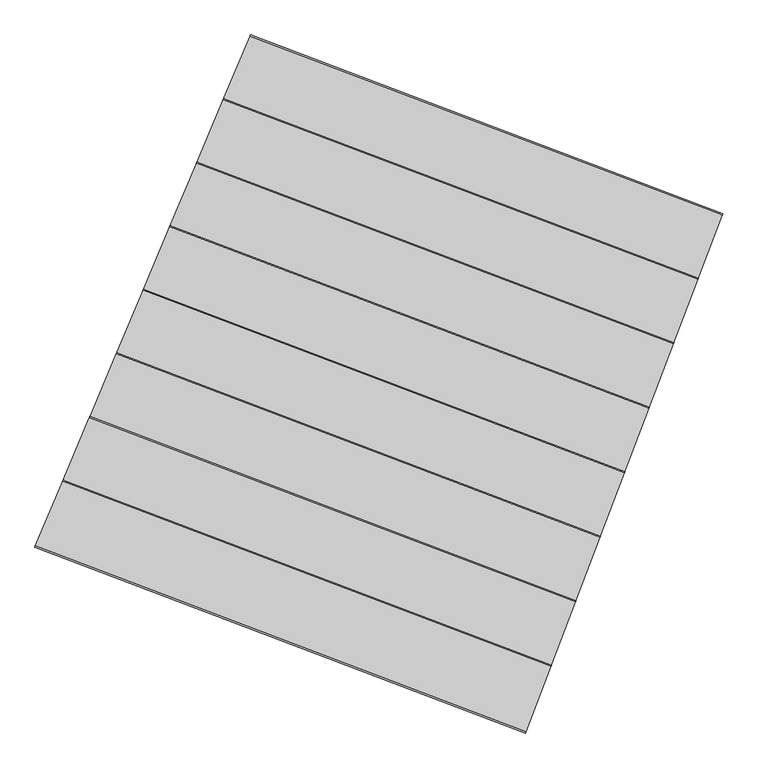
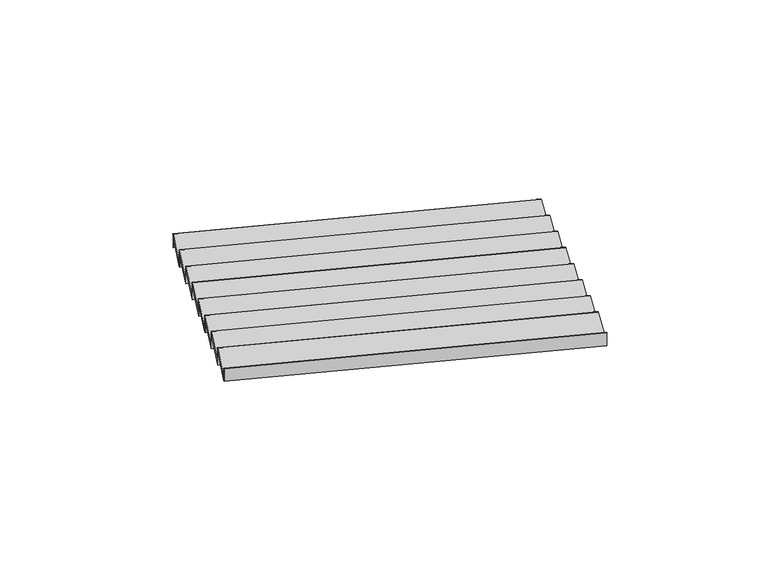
"""IFC4 building model written with IfcOpenShell, lengths in millimetres: stair flight geometry, Wood Steps with 50 mm Tread 20 mm Nosing 13 mm Riser."""

from ifc_helpers import new_model, si_unit, frame, origin, place, context, project, spatial, ellipse_curve, faceted_brep, source, transform, mapped, element, save
from ifc_brep_helpers import plane_surface, cylinder_surface, advanced_brep


def stair_flight_2262ea3b(model_context):
    return source(origin(), model_context, "Body", "SolidModel", [
        advanced_brep(
        [(937630.5680837, -12700.6398136, 7659.2941176), (937630.5680837, -12700.6398136, 7679.2941176), (941663.1853836, -14227.2656845, 7679.2941176), (941663.1853836, -14227.2656845, 7659.2941176), (941450.6398541, -14786.6585493, 7679.2941176), (937398.1980252, -13252.5277167, 7679.2941176), (941663.1853836, -14227.2656845, 7629.2941176), (941450.6398541, -14786.6585493, 7629.2941176), (937398.1980252, -13252.5277167, 7629.2941176), (937630.5680837, -12700.6398136, 7629.2941176)],
        [
            (0, 1, ellipse_curve(frame((937630.5680837, -12700.6398136, 7669.2941176), z_axis=(0.9216376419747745, -0.38805161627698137, 0.0), x_axis=(-0.3880516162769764, -0.9216376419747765, 0.0)), 10.0067089, 10.0)),
            (1, 2),
            (2, 3, ellipse_curve(frame((941663.1853836, -14227.2656845, 7669.2941176), z_axis=(-0.9347967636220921, 0.35518306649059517, 0.0), x_axis=(-0.3551830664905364, -0.9347967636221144, 0.0)), 10.0000074, 10.0)),
            (3, 0),
            (4, 2),
            (1, 5),
            (5, 4),
            (6, 7),
            (7, 8),
            (8, 9),
            (9, 6),
            (4, 7),
            (6, 3),
            (9, 0),
            (8, 5),
        ],
        [
            cylinder_surface(frame((937630.5680837, -12700.6398136, 7669.2941176), z_axis=(-0.9352270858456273, 0.3540484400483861, 0.0), x_axis=(-0.3540484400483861, -0.9352270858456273, 0.0)), 10.0),
            plane_surface(frame((940203.7813433, -18068.2319422, 7679.2941176), z_axis=(0.0, 0.0, 1.0), x_axis=(0.35518306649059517, 0.9347967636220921, 0.0))),
            plane_surface(frame((940203.7813433, -18068.2319422, 7629.2941176), z_axis=(0.0, 0.0, -1.0), x_axis=(-0.35518306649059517, -0.9347967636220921, 0.0))),
            plane_surface(frame((941450.6398541, -14786.6585493, 7679.2941176), z_axis=(0.9347967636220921, -0.35518306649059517, 0.0), x_axis=(0.0, 0.0, -1.0))),
            plane_surface(frame((941663.1853836, -14227.2656845, 7679.2941176), z_axis=(0.3540484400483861, 0.9352270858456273, 0.0), x_axis=(0.0, 0.0, -1.0))),
            plane_surface(frame((937630.5680837, -12700.6398136, 7679.2941176), z_axis=(-0.9216376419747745, 0.38805161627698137, 0.0), x_axis=(0.0, 0.0, -1.0))),
            plane_surface(frame((937398.1980252, -13252.5277167, 7679.2941176), z_axis=(-0.35404844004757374, -0.935227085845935, 0.0), x_axis=(0.0, 0.0, -1.0))),
        ],
        [
            (0, [[1, 2, 3, 4]]),
            (1, [[5, -2, 6, 7]]),
            (2, [[8, 9, 10, 11]]),
            (3, [[-5, 12, -8, 13, -3]]),
            (4, [[-11, 14, -4, -13]]),
            (5, [[-6, -1, -14, -10, 15]]),
            (6, [[-7, -15, -9, -12]]),
        ],
    ),
        faceted_brep([(937626.6849641, -12709.8623733, 7629.2941176), (937626.6849641, -12709.8623733, 7500.0), (937621.8310646, -12721.3905728, 7500.0), (937621.8310646, -12721.3905728, 7629.2941176), (941659.6335504, -14236.613659, 7629.2941176), (941655.1937588, -14248.2986271, 7629.2941176), (941655.1937588, -14248.2986271, 7500.0), (941659.6335504, -14236.613659, 7500.0)], [[[0, 1, 2, 3]], [[4, 5, 6, 7]], [[1, 0, 4, 7]], [[2, 1, 7, 6]], [[3, 2, 6, 5]], [[0, 3, 5, 4]]]),
        faceted_brep([(937398.1980252, -13252.5277167, 7808.5882353), (937398.1980252, -13252.5277167, 7629.2941176), (937393.3441257, -13264.0559162, 7629.2941176), (937393.3441257, -13264.0559162, 7808.5882353), (941450.6398541, -14786.6585493, 7808.5882353), (941446.2000625, -14798.3435175, 7808.5882353), (941446.2000625, -14798.3435175, 7629.2941176), (941450.6398541, -14786.6585493, 7629.2941176)], [[[0, 1, 2, 3]], [[4, 5, 6, 7]], [[1, 0, 4, 7]], [[2, 1, 7, 6]], [[3, 2, 6, 5]], [[0, 3, 5, 4]]]),
        advanced_brep(
        [(941241.6461579, -15336.7034396, 7858.5882353), (941454.1916874, -14777.3105748, 7858.5882353), (937402.0811448, -13243.305157, 7858.5882353), (937169.7110863, -13795.19306, 7858.5882353), (941454.1916874, -14777.3105748, 7808.5882353), (941241.6461579, -15336.7034396, 7808.5882353), (937169.7110863, -13795.19306, 7808.5882353), (937402.0811448, -13243.305157, 7808.5882353), (941454.1916874, -14777.3105748, 7838.5882353), (937402.0811448, -13243.305157, 7838.5882353)],
        [
            (0, 1),
            (1, 2),
            (2, 3),
            (3, 0),
            (4, 5),
            (5, 6),
            (6, 7),
            (7, 4),
            (0, 5),
            (4, 8),
            (8, 1, ellipse_curve(frame((941454.1916874, -14777.3105748, 7848.5882353), z_axis=(0.9347967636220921, -0.35518306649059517, 0.0), x_axis=(-0.3551830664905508, -0.934796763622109, 0.0)), 10.0000074, 10.0)),
            (7, 9),
            (9, 8),
            (2, 9, ellipse_curve(frame((937402.0811448, -13243.305157, 7848.5882353), z_axis=(-0.9216376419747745, 0.38805161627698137, 0.0), x_axis=(-0.3880516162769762, -0.9216376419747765, 0.0)), 10.0067089, 10.0)),
            (6, 3),
        ],
        [
            plane_surface(frame((940203.7813433, -18068.2319422, 7858.5882353), z_axis=(0.0, 0.0, 1.0), x_axis=(0.35518306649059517, 0.9347967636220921, 0.0))),
            plane_surface(frame((940203.7813433, -18068.2319422, 7808.5882353), z_axis=(0.0, 0.0, -1.0), x_axis=(-0.35518306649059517, -0.9347967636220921, 0.0))),
            plane_surface(frame((941241.6461579, -15336.7034396, 7858.5882353), z_axis=(0.9347967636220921, -0.35518306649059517, 0.0), x_axis=(0.0, 0.0, -1.0))),
            plane_surface(frame((941454.1916874, -14777.3105748, 7858.5882353), z_axis=(0.35404844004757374, 0.935227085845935, 0.0), x_axis=(0.0, 0.0, -1.0))),
            plane_surface(frame((937402.0811448, -13243.305157, 7858.5882353), z_axis=(-0.9216376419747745, 0.38805161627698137, 0.0), x_axis=(0.0, 0.0, -1.0))),
            plane_surface(frame((937169.7110863, -13795.19306, 7858.5882353), z_axis=(-0.35404844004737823, -0.9352270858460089, 0.0), x_axis=(0.0, 0.0, -1.0))),
            cylinder_surface(frame((937402.0811448, -13243.305157, 7848.5882353), z_axis=(-0.935227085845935, 0.35404844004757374, 0.0), x_axis=(-0.35404844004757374, -0.935227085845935, 0.0)), 10.0),
        ],
        [
            (0, [[1, 2, 3, 4]]),
            (1, [[5, 6, 7, 8]]),
            (2, [[-1, 9, -5, 10, 11]]),
            (3, [[-8, 12, 13, -10]]),
            (4, [[-3, 14, -12, -7, 15]]),
            (5, [[-4, -15, -6, -9]]),
            (6, [[-14, -2, -11, -13]]),
        ],
    ),
        faceted_brep([(937169.7110863, -13795.19306, 7987.8823529), (937169.7110863, -13795.19306, 7808.5882353), (937164.8571868, -13806.7212596, 7808.5882353), (937164.8571868, -13806.7212596, 7987.8823529), (941241.6461579, -15336.7034396, 7987.8823529), (941237.2063663, -15348.3884078, 7987.8823529), (941237.2063663, -15348.3884078, 7808.5882353), (941241.6461579, -15336.7034396, 7808.5882353)], [[[0, 1, 2, 3]], [[4, 5, 6, 7]], [[1, 0, 4, 7]], [[2, 1, 7, 6]], [[3, 2, 6, 5]], [[0, 3, 5, 4]]]),
        advanced_brep(
        [(941032.6524617, -15886.7483299, 8037.8823529), (941245.1979912, -15327.3554651, 8037.8823529), (937173.5942058, -13785.9705004, 8037.8823529), (936941.2241474, -14337.8584034, 8037.8823529), (941245.1979912, -15327.3554651, 7987.8823529), (941032.6524617, -15886.7483299, 7987.8823529), (936941.2241474, -14337.8584034, 7987.8823529), (937173.5942058, -13785.9705004, 7987.8823529), (941245.1979912, -15327.3554651, 8017.8823529), (937173.5942058, -13785.9705004, 8017.8823529)],
        [
            (0, 1),
            (1, 2),
            (2, 3),
            (3, 0),
            (4, 5),
            (5, 6),
            (6, 7),
            (7, 4),
            (0, 5),
            (4, 8),
            (8, 1, ellipse_curve(frame((941245.1979912, -15327.3554651, 8027.8823529), z_axis=(0.9347967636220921, -0.35518306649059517, 0.0), x_axis=(-0.3551830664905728, -0.9347967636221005, 0.0)), 10.0000074, 10.0)),
            (7, 9),
            (9, 8),
            (2, 9, ellipse_curve(frame((937173.5942058, -13785.9705004, 8027.8823529), z_axis=(-0.9216376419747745, 0.38805161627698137, 0.0), x_axis=(-0.38805161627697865, -0.9216376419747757, 0.0)), 10.0067089, 10.0)),
            (6, 3),
        ],
        [
            plane_surface(frame((940203.7813433, -18068.2319422, 8037.8823529), z_axis=(0.0, 0.0, 1.0), x_axis=(0.35518306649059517, 0.9347967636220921, 0.0))),
            plane_surface(frame((940203.7813433, -18068.2319422, 7987.8823529), z_axis=(0.0, 0.0, -1.0), x_axis=(-0.35518306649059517, -0.9347967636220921, 0.0))),
            plane_surface(frame((941032.6524617, -15886.7483299, 8037.8823529), z_axis=(0.9347967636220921, -0.35518306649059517, 0.0), x_axis=(0.0, 0.0, -1.0))),
            plane_surface(frame((941245.1979912, -15327.3554651, 8037.8823529), z_axis=(0.35404844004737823, 0.9352270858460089, 0.0), x_axis=(0.0, 0.0, -1.0))),
            plane_surface(frame((937173.5942058, -13785.9705004, 8037.8823529), z_axis=(-0.9216376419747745, 0.38805161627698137, 0.0), x_axis=(0.0, 0.0, -1.0))),
            plane_surface(frame((936941.2241474, -14337.8584034, 8037.8823529), z_axis=(-0.35404844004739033, -0.9352270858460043, 0.0), x_axis=(0.0, 0.0, -1.0))),
            cylinder_surface(frame((937173.5942058, -13785.9705004, 8027.8823529), z_axis=(-0.9352270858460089, 0.35404844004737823, 0.0), x_axis=(-0.35404844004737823, -0.9352270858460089, 0.0)), 10.0),
        ],
        [
            (0, [[1, 2, 3, 4]]),
            (1, [[5, 6, 7, 8]]),
            (2, [[-1, 9, -5, 10, 11]]),
            (3, [[-8, 12, 13, -10]]),
            (4, [[-3, 14, -12, -7, 15]]),
            (5, [[-4, -15, -6, -9]]),
            (6, [[-14, -2, -11, -13]]),
        ],
    ),
        faceted_brep([(936941.2241474, -14337.8584034, 8167.1764706), (936941.2241474, -14337.8584034, 7987.8823529), (936936.3702479, -14349.386603, 7987.8823529), (936936.3702479, -14349.386603, 8167.1764706), (941032.6524617, -15886.7483299, 8167.1764706), (941028.2126701, -15898.4332981, 8167.1764706), (941028.2126701, -15898.4332981, 7987.8823529), (941032.6524617, -15886.7483299, 7987.8823529)], [[[0, 1, 2, 3]], [[4, 5, 6, 7]], [[1, 0, 4, 7]], [[2, 1, 7, 6]], [[3, 2, 6, 5]], [[0, 3, 5, 4]]]),
        advanced_brep(
        [(940823.6587654, -16436.7932203, 8217.1764706), (941036.204295, -15877.4003554, 8217.1764706), (936945.1072669, -14328.6358438, 8217.1764706), (936712.7372084, -14880.5237468, 8217.1764706), (941036.204295, -15877.4003554, 8167.1764706), (940823.6587654, -16436.7932203, 8167.1764706), (936712.7372084, -14880.5237468, 8167.1764706), (936945.1072669, -14328.6358438, 8167.1764706), (941036.204295, -15877.4003554, 8197.1764706), (936945.1072669, -14328.6358438, 8197.1764706)],
        [
            (0, 1),
            (1, 2),
            (2, 3),
            (3, 0),
            (4, 5),
            (5, 6),
            (6, 7),
            (7, 4),
            (0, 5),
            (4, 8),
            (8, 1, ellipse_curve(frame((941036.204295, -15877.4003554, 8207.1764706), z_axis=(0.9347967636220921, -0.35518306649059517, 0.0), x_axis=(-0.35518306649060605, -0.934796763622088, 0.0)), 10.0000074, 10.0)),
            (7, 9),
            (9, 8),
            (2, 9, ellipse_curve(frame((936945.1072669, -14328.6358438, 8207.1764706), z_axis=(-0.9216376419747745, 0.38805161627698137, 0.0), x_axis=(-0.38805161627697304, -0.9216376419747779, 0.0)), 10.0067089, 10.0)),
            (6, 3),
        ],
        [
            plane_surface(frame((940203.7813433, -18068.2319422, 8217.1764706), z_axis=(0.0, 0.0, 1.0), x_axis=(0.35518306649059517, 0.9347967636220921, 0.0))),
            plane_surface(frame((940203.7813433, -18068.2319422, 8167.1764706), z_axis=(0.0, 0.0, -1.0), x_axis=(-0.35518306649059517, -0.9347967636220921, 0.0))),
            plane_surface(frame((940823.6587654, -16436.7932203, 8217.1764706), z_axis=(0.9347967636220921, -0.35518306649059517, 0.0), x_axis=(0.0, 0.0, -1.0))),
            plane_surface(frame((941036.204295, -15877.4003554, 8217.1764706), z_axis=(0.35404844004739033, 0.9352270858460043, 0.0), x_axis=(0.0, 0.0, -1.0))),
            plane_surface(frame((936945.1072669, -14328.6358438, 8217.1764706), z_axis=(-0.9216376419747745, 0.38805161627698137, 0.0), x_axis=(0.0, 0.0, -1.0))),
            plane_surface(frame((936712.7372084, -14880.5237468, 8217.1764706), z_axis=(-0.3540484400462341, -0.935227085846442, 0.0), x_axis=(0.0, 0.0, -1.0))),
            cylinder_surface(frame((936945.1072669, -14328.6358438, 8207.1764706), z_axis=(-0.9352270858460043, 0.35404844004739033, 0.0), x_axis=(-0.35404844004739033, -0.9352270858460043, 0.0)), 10.0),
        ],
        [
            (0, [[1, 2, 3, 4]]),
            (1, [[5, 6, 7, 8]]),
            (2, [[-1, 9, -5, 10, 11]]),
            (3, [[-8, 12, 13, -10]]),
            (4, [[-3, 14, -12, -7, 15]]),
            (5, [[-4, -15, -6, -9]]),
            (6, [[-14, -2, -11, -13]]),
        ],
    ),
        faceted_brep([(936712.7372084, -14880.5237468, 8346.4705882), (936712.7372084, -14880.5237468, 8167.1764706), (936707.883309, -14892.0519464, 8167.1764706), (936707.883309, -14892.0519464, 8346.4705882), (940823.6587654, -16436.7932203, 8346.4705882), (940819.2189738, -16448.4781884, 8346.4705882), (940819.2189738, -16448.4781884, 8167.1764706), (940823.6587654, -16436.7932203, 8167.1764706)], [[[0, 1, 2, 3]], [[4, 5, 6, 7]], [[1, 0, 4, 7]], [[2, 1, 7, 6]], [[3, 2, 6, 5]], [[0, 3, 5, 4]]]),
        advanced_brep(
        [(940614.6650692, -16986.8381106, 8396.4705882), (940827.2105987, -16427.4452457, 8396.4705882), (936716.620328, -14871.3011872, 8396.4705882), (936484.2502695, -15423.1890902, 8396.4705882), (940827.2105987, -16427.4452457, 8346.4705882), (940614.6650692, -16986.8381106, 8346.4705882), (936484.2502695, -15423.1890902, 8346.4705882), (936716.620328, -14871.3011872, 8346.4705882), (940827.2105987, -16427.4452457, 8376.4705882), (936716.620328, -14871.3011872, 8376.4705882)],
        [
            (0, 1),
            (1, 2),
            (2, 3),
            (3, 0),
            (4, 5),
            (5, 6),
            (6, 7),
            (7, 4),
            (0, 5),
            (4, 8),
            (8, 1, ellipse_curve(frame((940827.2105987, -16427.4452457, 8386.4705882), z_axis=(0.9347967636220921, -0.35518306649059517, 0.0), x_axis=(-0.3551830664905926, -0.9347967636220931, 0.0)), 10.0000074, 10.0)),
            (7, 9),
            (9, 8),
            (2, 9, ellipse_curve(frame((936716.620328, -14871.3011872, 8386.4705882), z_axis=(-0.9216376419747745, 0.38805161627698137, 0.0), x_axis=(-0.38805161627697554, -0.9216376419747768, 0.0)), 10.0067089, 10.0)),
            (6, 3),
        ],
        [
            plane_surface(frame((940203.7813433, -18068.2319422, 8396.4705882), z_axis=(0.0, 0.0, 1.0), x_axis=(0.35518306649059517, 0.9347967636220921, 0.0))),
            plane_surface(frame((940203.7813433, -18068.2319422, 8346.4705882), z_axis=(0.0, 0.0, -1.0), x_axis=(-0.35518306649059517, -0.9347967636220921, 0.0))),
            plane_surface(frame((940614.6650692, -16986.8381106, 8396.4705882), z_axis=(0.9347967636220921, -0.35518306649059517, 0.0), x_axis=(0.0, 0.0, -1.0))),
            plane_surface(frame((940827.2105987, -16427.4452457, 8396.4705882), z_axis=(0.3540484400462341, 0.935227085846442, 0.0), x_axis=(0.0, 0.0, -1.0))),
            plane_surface(frame((936716.620328, -14871.3011872, 8396.4705882), z_axis=(-0.9216376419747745, 0.38805161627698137, 0.0), x_axis=(0.0, 0.0, -1.0))),
            plane_surface(frame((936484.2502695, -15423.1890902, 8396.4705882), z_axis=(-0.35404844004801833, -0.9352270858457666, 0.0), x_axis=(0.0, 0.0, -1.0))),
            cylinder_surface(frame((936716.620328, -14871.3011872, 8386.4705882), z_axis=(-0.935227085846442, 0.3540484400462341, 0.0), x_axis=(-0.3540484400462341, -0.935227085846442, 0.0)), 10.0),
        ],
        [
            (0, [[1, 2, 3, 4]]),
            (1, [[5, 6, 7, 8]]),
            (2, [[-1, 9, -5, 10, 11]]),
            (3, [[-8, 12, 13, -10]]),
            (4, [[-3, 14, -12, -7, 15]]),
            (5, [[-4, -15, -6, -9]]),
            (6, [[-14, -2, -11, -13]]),
        ],
    ),
        faceted_brep([(936484.2502695, -15423.1890902, 8525.7647059), (936484.2502695, -15423.1890902, 8346.4705882), (936479.3963701, -15434.7172898, 8346.4705882), (936479.3963701, -15434.7172898, 8525.7647059), (940614.6650692, -16986.8381106, 8525.7647059), (940610.2252776, -16998.5230787, 8525.7647059), (940610.2252776, -16998.5230787, 8346.4705882), (940614.6650692, -16986.8381106, 8346.4705882)], [[[0, 1, 2, 3]], [[4, 5, 6, 7]], [[1, 0, 4, 7]], [[2, 1, 7, 6]], [[3, 2, 6, 5]], [[0, 3, 5, 4]]]),
        advanced_brep(
        [(940405.671373, -17536.8830009, 8575.7647059), (940618.2169025, -16977.4901361, 8575.7647059), (936488.1333891, -15413.9665306, 8575.7647059), (936255.7633306, -15965.8544336, 8575.7647059), (940618.2169025, -16977.4901361, 8525.7647059), (940405.671373, -17536.8830009, 8525.7647059), (936255.7633306, -15965.8544336, 8525.7647059), (936488.1333891, -15413.9665306, 8525.7647059), (940618.2169025, -16977.4901361, 8555.7647059), (936488.1333891, -15413.9665306, 8555.7647059)],
        [
            (0, 1),
            (1, 2),
            (2, 3),
            (3, 0),
            (4, 5),
            (5, 6),
            (6, 7),
            (7, 4),
            (0, 5),
            (4, 8),
            (8, 1, ellipse_curve(frame((940618.2169025, -16977.4901361, 8565.7647059), z_axis=(0.9347967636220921, -0.35518306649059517, 0.0), x_axis=(-0.3551830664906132, -0.9347967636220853, 0.0)), 10.0000074, 10.0)),
            (7, 9),
            (9, 8),
            (2, 9, ellipse_curve(frame((936488.1333891, -15413.9665306, 8565.7647059), z_axis=(-0.9216376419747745, 0.38805161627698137, 0.0), x_axis=(-0.3880516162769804, -0.9216376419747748, 0.0)), 10.0067089, 10.0)),
            (6, 3),
        ],
        [
            plane_surface(frame((940203.7813433, -18068.2319422, 8575.7647059), z_axis=(0.0, 0.0, 1.0), x_axis=(0.35518306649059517, 0.9347967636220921, 0.0))),
            plane_surface(frame((940203.7813433, -18068.2319422, 8525.7647059), z_axis=(0.0, 0.0, -1.0), x_axis=(-0.35518306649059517, -0.9347967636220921, 0.0))),
            plane_surface(frame((940405.671373, -17536.8830009, 8575.7647059), z_axis=(0.9347967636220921, -0.35518306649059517, 0.0), x_axis=(0.0, 0.0, -1.0))),
            plane_surface(frame((940618.2169025, -16977.4901361, 8575.7647059), z_axis=(0.35404844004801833, 0.9352270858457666, 0.0), x_axis=(0.0, 0.0, -1.0))),
            plane_surface(frame((936488.1333891, -15413.9665306, 8575.7647059), z_axis=(-0.9216376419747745, 0.38805161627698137, 0.0), x_axis=(0.0, 0.0, -1.0))),
            plane_surface(frame((936255.7633306, -15965.8544336, 8575.7647059), z_axis=(-0.35404844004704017, -0.9352270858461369, 0.0), x_axis=(0.0, 0.0, -1.0))),
            cylinder_surface(frame((936488.1333891, -15413.9665306, 8565.7647059), z_axis=(-0.9352270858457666, 0.35404844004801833, 0.0), x_axis=(-0.35404844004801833, -0.9352270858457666, 0.0)), 10.0),
        ],
        [
            (0, [[1, 2, 3, 4]]),
            (1, [[5, 6, 7, 8]]),
            (2, [[-1, 9, -5, 10, 11]]),
            (3, [[-8, 12, 13, -10]]),
            (4, [[-3, 14, -12, -7, 15]]),
            (5, [[-4, -15, -6, -9]]),
            (6, [[-14, -2, -11, -13]]),
        ],
    ),
        faceted_brep([(936255.7633306, -15965.8544336, 8705.0588235), (936255.7633306, -15965.8544336, 8525.7647059), (936250.9094311, -15977.3826332, 8525.7647059), (936250.9094311, -15977.3826332, 8705.0588235), (940405.671373, -17536.8830009, 8705.0588235), (940401.2315814, -17548.567969, 8705.0588235), (940401.2315814, -17548.567969, 8525.7647059), (940405.671373, -17536.8830009, 8525.7647059)], [[[0, 1, 2, 3]], [[4, 5, 6, 7]], [[1, 0, 4, 7]], [[2, 1, 7, 6]], [[3, 2, 6, 5]], [[0, 3, 5, 4]]]),
        advanced_brep(
        [(940196.6776768, -18086.9278912, 8755.0588235), (940409.2232063, -17527.5350264, 8755.0588235), (936259.6464502, -15956.631874, 8755.0588235), (936027.2763917, -16508.519777, 8755.0588235), (940409.2232063, -17527.5350264, 8705.0588235), (940196.6776768, -18086.9278912, 8705.0588235), (936027.2763917, -16508.519777, 8705.0588235), (936259.6464502, -15956.631874, 8705.0588235), (940409.2232063, -17527.5350264, 8735.0588235), (936259.6464502, -15956.631874, 8735.0588235)],
        [
            (0, 1),
            (1, 2),
            (2, 3),
            (3, 0),
            (4, 5),
            (5, 6),
            (6, 7),
            (7, 4),
            (0, 5),
            (4, 8),
            (8, 1, ellipse_curve(frame((940409.2232063, -17527.5350264, 8745.0588235), z_axis=(0.9347967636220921, -0.35518306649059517, 0.0), x_axis=(-0.35518306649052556, -0.9347967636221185, 0.0)), 10.0000074, 10.0)),
            (7, 9),
            (9, 8),
            (2, 9, ellipse_curve(frame((936259.6464502, -15956.631874, 8745.0588235), z_axis=(-0.9216376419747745, 0.38805161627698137, 0.0), x_axis=(-0.3880516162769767, -0.9216376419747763, 0.0)), 10.0067089, 10.0)),
            (6, 3),
        ],
        [
            plane_surface(frame((940203.7813433, -18068.2319422, 8755.0588235), z_axis=(0.0, 0.0, 1.0), x_axis=(0.35518306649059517, 0.9347967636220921, 0.0))),
            plane_surface(frame((940203.7813433, -18068.2319422, 8705.0588235), z_axis=(0.0, 0.0, -1.0), x_axis=(-0.35518306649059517, -0.9347967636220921, 0.0))),
            plane_surface(frame((940196.6776768, -18086.9278912, 8755.0588235), z_axis=(0.9347967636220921, -0.35518306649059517, 0.0), x_axis=(0.0, 0.0, -1.0))),
            plane_surface(frame((940409.2232063, -17527.5350264, 8755.0588235), z_axis=(0.35404844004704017, 0.9352270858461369, 0.0), x_axis=(0.0, 0.0, -1.0))),
            plane_surface(frame((936259.6464502, -15956.631874, 8755.0588235), z_axis=(-0.9216376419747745, 0.38805161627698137, 0.0), x_axis=(0.0, 0.0, -1.0))),
            plane_surface(frame((936027.2763917, -16508.519777, 8755.0588235), z_axis=(-0.3540484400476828, -0.9352270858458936, 0.0), x_axis=(0.0, 0.0, -1.0))),
            cylinder_surface(frame((936259.6464502, -15956.631874, 8745.0588235), z_axis=(-0.9352270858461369, 0.35404844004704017, 0.0), x_axis=(-0.35404844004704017, -0.9352270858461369, 0.0)), 10.0),
        ],
        [
            (0, [[1, 2, 3, 4]]),
            (1, [[5, 6, 7, 8]]),
            (2, [[-1, 9, -5, 10, 11]]),
            (3, [[-8, 12, 13, -10]]),
            (4, [[-3, 14, -12, -7, 15]]),
            (5, [[-4, -15, -6, -9]]),
            (6, [[-14, -2, -11, -13]]),
        ],
    ),
        faceted_brep([(936027.2763917, -16508.519777, 8884.3529412), (936027.2763917, -16508.519777, 8705.0588235), (936022.4224922, -16520.0479766, 8705.0588235), (936022.4224922, -16520.0479766, 8884.3529412), (940196.6776768, -18086.9278912, 8884.3529412), (940192.2378852, -18098.6128594, 8884.3529412), (940192.2378852, -18098.6128594, 8705.0588235), (940196.6776768, -18086.9278912, 8705.0588235)], [[[0, 1, 2, 3]], [[4, 5, 6, 7]], [[1, 0, 4, 7]], [[2, 1, 7, 6]], [[3, 2, 6, 5]], [[0, 3, 5, 4]]]),
        faceted_brep([(935798.7894528, -17051.1851204, 9063.6470588), (935798.7894528, -17051.1851204, 8884.3529412), (935793.9355533, -17062.71332, 8884.3529412), (935793.9355533, -17062.71332, 9063.6470588), (939987.6839805, -18636.9727815, 9063.6470588), (939983.2441889, -18648.6577497, 9063.6470588), (939983.2441889, -18648.6577497, 8884.3529412), (939987.6839805, -18636.9727815, 8884.3529412)], [[[0, 1, 2, 3]], [[4, 5, 6, 7]], [[1, 0, 4, 7]], [[2, 1, 7, 6]], [[3, 2, 6, 5]], [[0, 3, 5, 4]]]),
        advanced_brep(
        [(939987.6839805, -18636.9727815, 8934.3529412), (940200.22951, -18077.5799167, 8934.3529412), (936031.1595113, -16499.2972174, 8934.3529412), (935798.7894528, -17051.1851204, 8934.3529412), (940200.22951, -18077.5799167, 8884.3529412), (939987.6839805, -18636.9727815, 8884.3529412), (935798.7894528, -17051.1851204, 8884.3529412), (936031.1595113, -16499.2972174, 8884.3529412), (940200.22951, -18077.5799167, 8914.3529412), (936031.1595113, -16499.2972174, 8914.3529412)],
        [
            (0, 1),
            (1, 2),
            (2, 3),
            (3, 0),
            (4, 5),
            (5, 6),
            (6, 7),
            (7, 4),
            (0, 5),
            (4, 8),
            (8, 1, ellipse_curve(frame((940200.22951, -18077.5799167, 8924.3529412), z_axis=(0.9347967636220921, -0.35518306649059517, 0.0), x_axis=(-0.3551830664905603, -0.9347967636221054, 0.0)), 10.0000074, 10.0)),
            (7, 9),
            (9, 8),
            (2, 9, ellipse_curve(frame((936031.1595113, -16499.2972174, 8924.3529412), z_axis=(-0.9216376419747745, 0.38805161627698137, 0.0), x_axis=(-0.3880516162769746, -0.9216376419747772, 0.0)), 10.0067089, 10.0)),
            (6, 3),
        ],
        [
            plane_surface(frame((940203.7813433, -18068.2319422, 8934.3529412), z_axis=(0.0, 0.0, 1.0), x_axis=(0.35518306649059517, 0.9347967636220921, 0.0))),
            plane_surface(frame((940203.7813433, -18068.2319422, 8884.3529412), z_axis=(0.0, 0.0, -1.0), x_axis=(-0.35518306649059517, -0.9347967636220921, 0.0))),
            plane_surface(frame((939987.6839805, -18636.9727815, 8934.3529412), z_axis=(0.9347967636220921, -0.35518306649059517, 0.0), x_axis=(0.0, 0.0, -1.0))),
            plane_surface(frame((940200.22951, -18077.5799167, 8934.3529412), z_axis=(0.3540484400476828, 0.9352270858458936, 0.0), x_axis=(0.0, 0.0, -1.0))),
            plane_surface(frame((936031.1595113, -16499.2972174, 8934.3529412), z_axis=(-0.9216376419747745, 0.38805161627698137, 0.0), x_axis=(0.0, 0.0, -1.0))),
            plane_surface(frame((935798.7894528, -17051.1851204, 8934.3529412), z_axis=(-0.3540484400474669, -0.9352270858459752, 0.0), x_axis=(0.0, 0.0, -1.0))),
            cylinder_surface(frame((936031.1595113, -16499.2972174, 8924.3529412), z_axis=(-0.9352270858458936, 0.3540484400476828, 0.0), x_axis=(-0.3540484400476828, -0.9352270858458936, 0.0)), 10.0),
        ],
        [
            (0, [[1, 2, 3, 4]]),
            (1, [[5, 6, 7, 8]]),
            (2, [[-1, 9, -5, 10, 11]]),
            (3, [[-8, 12, 13, -10]]),
            (4, [[-3, 14, -12, -7, 15]]),
            (5, [[-4, -15, -6, -9]]),
            (6, [[-14, -2, -11, -13]]),
        ],
    ),
    ])


if __name__ == "__main__":
    model = new_model("IFC4")
    model_context = context("Model", 3, world=origin())
    ifc_project = project(units=[si_unit("LENGTHUNIT", "METRE", prefix="MILLI")], contexts=[model_context])
    site = spatial("IfcSite", under=ifc_project)
    building = spatial("IfcBuilding", under=site)
    placement = place(None, origin())
    stair_flight_shape = stair_flight_2262ea3b(model_context)
    element("IfcStairFlight", 1, ObjectType="Wood Steps with 50 mm Tread 20 mm Nosing 13 mm Riser", at=placement, inside=building, context=model_context, shape_type="MappedRepresentation", body=[
        mapped(stair_flight_shape, transform((0.0, 0.0, 0.0), x_axis=(1.0, 0.0, 0.0), y_axis=(0.0, 1.0, 0.0), z_axis=(0.0, 0.0, 1.0))),
    ])
    save(model, "model.ifc")
